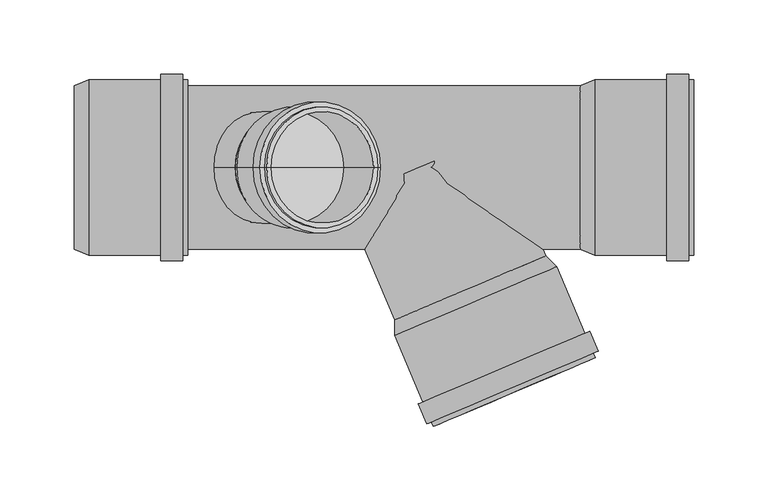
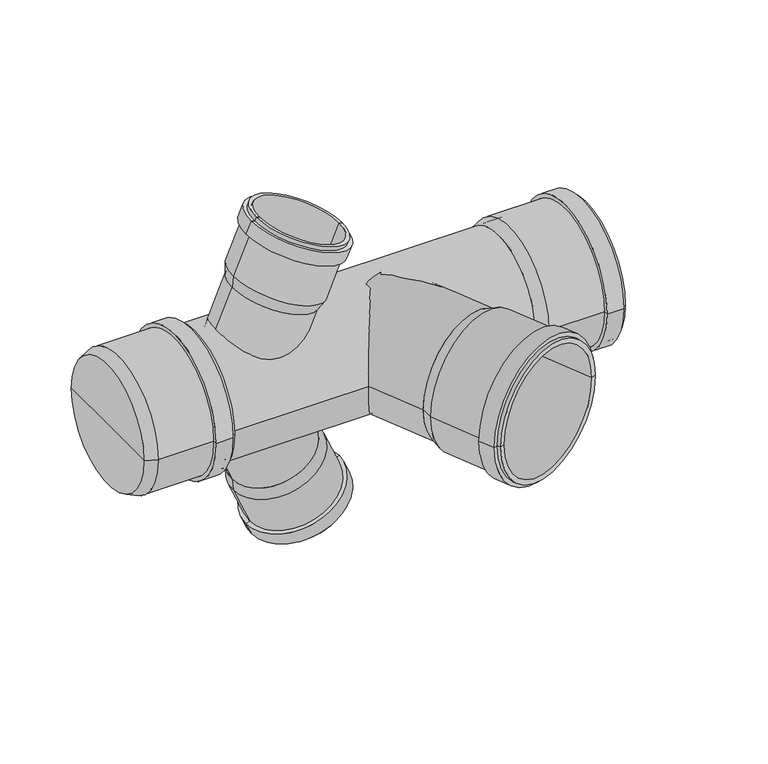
"""IFC4 building model written with IfcOpenShell, lengths in millimetres: pipe fitting geometry, pf_HTEPt : pf_HTEPt."""

from ifc_helpers import new_model, si_unit, point, frame, origin, origin_2d, place, context, project, spatial, polyline, circle_curve, trimmed, segment, composite_curve, outline, extrude, source, transform, mapped, element, save
from ifc_brep_helpers import plane_surface, cylinder_surface, revolved_surface, advanced_brep


def pipe_fitting_50fed7b4(model_context):
    return source(origin(), model_context, "Body", "SolidModel", [
        advanced_brep(
        [(-54.4225777, 0.0, 58.987971), (-123.4604417, 0.0, 88.2928056), (-122.6020611, 0.0, 98.2488682), (-47.857067, 0.0, 66.5215006), (-88.9415097, 0.0, 73.6403883), (-27.7344138, 0.0, 113.9275005), (-102.4794079, 0.0, 145.6548682), (-99.6258429, 0.0, 144.4436017), (-30.5879789, 0.0, 115.138767), (-29.0628997, 0.0, 110.797784), (-103.8078938, 0.0, 142.5251517), (-25.9331832, 0.0, 109.4692982), (-106.9376103, 0.0, 143.8536375), (-30.4656643, 0.0, 98.7914419), (-111.4700914, 0.0, 133.1757812), (-33.5953808, 0.0, 100.1199277), (-108.3403749, 0.0, 131.8472954), (-50.710632, 0.0, 67.7327671), (-119.748496, 0.0, 97.0376017), (-85.229564, 0.0, 82.3851844)],
        [
            (0, 1, circle_curve(frame((-88.9415097, 0.0, 73.6403883), z_axis=(0.39073112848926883, 0.0, 0.9205048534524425), x_axis=(-0.9205048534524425, 0.0, 0.39073112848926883)), 37.5)),
            (1, 2),
            (2, 3, circle_curve(frame((-85.229564, 0.0, 82.3851844), z_axis=(-0.39073112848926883, 0.0, -0.9205048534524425), x_axis=(-0.9205048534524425, 0.0, 0.39073112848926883)), 40.6)),
            (3, 0),
            (1, 0, circle_curve(frame((-88.9415097, 0.0, 73.6403883), z_axis=(0.39073112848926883, 0.0, 0.9205048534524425), x_axis=(-0.9205048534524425, 0.0, 0.39073112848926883)), 37.5)),
            (3, 2, circle_curve(frame((-85.229564, 0.0, 82.3851844), z_axis=(-0.39073112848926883, 0.0, -0.9205048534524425), x_axis=(-0.9205048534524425, 0.0, 0.39073112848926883)), 40.6)),
            (4, 1),
            (0, 4),
            (5, 6, circle_curve(frame((-65.1069109, 0.0, 129.7911843), z_axis=(0.39073112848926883, 0.0, 0.9205048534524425), x_axis=(-0.9205048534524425, 0.0, 0.39073112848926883)), 40.6)),
            (6, 7),
            (7, 8, circle_curve(frame((-65.1069109, 0.0, 129.7911843), z_axis=(-0.39073112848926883, 0.0, -0.9205048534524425), x_axis=(-0.9205048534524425, 0.0, 0.39073112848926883)), 37.5)),
            (8, 5),
            (6, 5, circle_curve(frame((-65.1069109, 0.0, 129.7911843), z_axis=(0.39073112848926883, 0.0, 0.9205048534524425), x_axis=(-0.9205048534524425, 0.0, 0.39073112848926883)), 40.6)),
            (8, 7, circle_curve(frame((-65.1069109, 0.0, 129.7911843), z_axis=(-0.39073112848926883, 0.0, -0.9205048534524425), x_axis=(-0.9205048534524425, 0.0, 0.39073112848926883)), 37.5)),
            (9, 10, circle_curve(frame((-66.4353967, 0.0, 126.6614678), z_axis=(0.39073112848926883, 0.0, 0.9205048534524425), x_axis=(-0.9205048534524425, 0.0, 0.39073112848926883)), 40.6)),
            (10, 6),
            (5, 9),
            (10, 9, circle_curve(frame((-66.4353967, 0.0, 126.6614678), z_axis=(0.39073112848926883, 0.0, 0.9205048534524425), x_axis=(-0.9205048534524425, 0.0, 0.39073112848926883)), 40.6)),
            (11, 12, circle_curve(frame((-66.4353967, 0.0, 126.6614678), z_axis=(0.39073112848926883, 0.0, 0.9205048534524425), x_axis=(-0.9205048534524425, 0.0, 0.39073112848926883)), 44.0)),
            (12, 10),
            (9, 11),
            (12, 11, circle_curve(frame((-66.4353967, 0.0, 126.6614678), z_axis=(0.39073112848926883, 0.0, 0.9205048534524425), x_axis=(-0.9205048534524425, 0.0, 0.39073112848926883)), 44.0)),
            (13, 14, circle_curve(frame((-70.9678778, 0.0, 115.9836115), z_axis=(0.39073112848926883, 0.0, 0.9205048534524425), x_axis=(-0.9205048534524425, 0.0, 0.39073112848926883)), 44.0)),
            (14, 12),
            (11, 13),
            (14, 13, circle_curve(frame((-70.9678778, 0.0, 115.9836115), z_axis=(0.39073112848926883, 0.0, 0.9205048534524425), x_axis=(-0.9205048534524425, 0.0, 0.39073112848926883)), 44.0)),
            (15, 16, circle_curve(frame((-70.9678778, 0.0, 115.9836115), z_axis=(0.39073112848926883, 0.0, 0.9205048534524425), x_axis=(-0.9205048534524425, 0.0, 0.39073112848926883)), 40.6)),
            (16, 14),
            (13, 15),
            (16, 15, circle_curve(frame((-70.9678778, 0.0, 115.9836115), z_axis=(0.39073112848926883, 0.0, 0.9205048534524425), x_axis=(-0.9205048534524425, 0.0, 0.39073112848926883)), 40.6)),
            (2, 16),
            (15, 3),
            (17, 18, circle_curve(frame((-85.229564, 0.0, 82.3851844), z_axis=(0.39073112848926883, 0.0, 0.9205048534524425), x_axis=(-0.9205048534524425, 0.0, 0.39073112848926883)), 37.5)),
            (18, 19),
            (19, 17),
            (18, 17, circle_curve(frame((-85.229564, 0.0, 82.3851844), z_axis=(0.39073112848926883, 0.0, 0.9205048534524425), x_axis=(-0.9205048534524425, 0.0, 0.39073112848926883)), 37.5)),
            (7, 18),
            (17, 8),
        ],
        [
            revolved_surface(polyline([(-122.6020611, 0.0, 98.2488682), (-123.4604417, 0.0, 88.2928056)]), (-88.9415097, 0.0, 73.6403883), (-0.39073112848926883, 0.0, -0.9205048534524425)),
            plane_surface(frame((-88.9415097, 0.0, 73.6403883), z_axis=(-0.39073112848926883, 0.0, -0.9205048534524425), x_axis=(-0.9205048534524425, 0.0, 0.39073112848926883))),
            plane_surface(frame((-65.1069109, 0.0, 129.7911843), z_axis=(0.39073112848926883, 0.0, 0.9205048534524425), x_axis=(-0.9205048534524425, 0.0, 0.39073112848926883))),
            cylinder_surface(frame((-88.9415097, 0.0, 73.6403883), z_axis=(-0.39073112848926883, 0.0, -0.9205048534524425), x_axis=(-0.9205048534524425, 0.0, 0.39073112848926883)), 40.6),
            plane_surface(frame((-66.4353967, 0.0, 126.6614678), z_axis=(0.39073112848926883, 0.0, 0.9205048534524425), x_axis=(-0.9205048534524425, 0.0, 0.39073112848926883))),
            cylinder_surface(frame((-88.9415097, 0.0, 73.6403883), z_axis=(-0.39073112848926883, 0.0, -0.9205048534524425), x_axis=(-0.9205048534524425, 0.0, 0.39073112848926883)), 44.0),
            plane_surface(frame((-70.9678778, 0.0, 115.9836115), z_axis=(-0.39073112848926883, 0.0, -0.9205048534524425), x_axis=(-0.9205048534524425, 0.0, 0.39073112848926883))),
            plane_surface(frame((-85.229564, 0.0, 82.3851844), z_axis=(0.39073112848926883, 0.0, 0.9205048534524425), x_axis=(-0.9205048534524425, 0.0, 0.39073112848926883))),
            revolved_surface(polyline([(-119.74849599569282, 0.0, 97.03760169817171), (-99.62584286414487, 0.0, 144.44360168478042)]), (-88.9415097, 0.0, 73.6403883), (-0.39073112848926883, 0.0, -0.9205048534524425)),
        ],
        [
            (0, [[1, 2, 3, 4]]),
            (0, [[5, -4, 6, -2]]),
            (1, [[7, -1, 8]]),
            (1, [[-8, -5, -7]]),
            (2, [[9, 10, 11, 12]]),
            (2, [[13, -12, 14, -10]]),
            (3, [[15, 16, -9, 17]]),
            (3, [[18, -17, -13, -16]]),
            (4, [[19, 20, -15, 21]]),
            (4, [[22, -21, -18, -20]]),
            (5, [[23, 24, -19, 25]]),
            (5, [[26, -25, -22, -24]]),
            (6, [[27, 28, -23, 29]]),
            (6, [[30, -29, -26, -28]]),
            (3, [[-3, 31, -27, 32]]),
            (3, [[-6, -32, -30, -31]]),
            (7, [[33, 34, 35]]),
            (7, [[36, -35, -34]]),
            (8, [[-11, 37, -33, 38]]),
            (8, [[-14, -38, -36, -37]]),
        ],
    ),
        advanced_brep(
        [(-123.4604417, 0.0, -88.2928056), (-54.4225777, 0.0, -58.987971), (-47.857067, 0.0, -66.5215006), (-122.6020611, 0.0, -98.2488682), (-88.9415097, 0.0, -73.6403883), (-102.4794079, 0.0, -145.6548682), (-27.7344138, 0.0, -113.9275005), (-30.5879789, 0.0, -115.138767), (-99.6258429, 0.0, -144.4436017), (-103.8078938, 0.0, -142.5251517), (-29.0628997, 0.0, -110.797784), (-106.9376103, 0.0, -143.8536375), (-25.9331832, 0.0, -109.4692982), (-111.4700914, 0.0, -133.1757812), (-30.4656643, 0.0, -98.7914419), (-108.3403749, 0.0, -131.8472954), (-33.5953808, 0.0, -100.1199277), (-119.748496, 0.0, -97.0376017), (-50.710632, 0.0, -67.7327671), (-85.229564, 0.0, -82.3851844)],
        [
            (0, 1, circle_curve(frame((-88.9415097, 0.0, -73.6403883), z_axis=(0.39073112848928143, 0.0, -0.920504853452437), x_axis=(0.920504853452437, 0.0, 0.39073112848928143)), 37.5)),
            (1, 2),
            (2, 3, circle_curve(frame((-85.229564, 0.0, -82.3851844), z_axis=(-0.39073112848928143, 0.0, 0.920504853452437), x_axis=(0.920504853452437, 0.0, 0.39073112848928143)), 40.6)),
            (3, 0),
            (1, 0, circle_curve(frame((-88.9415097, 0.0, -73.6403883), z_axis=(0.39073112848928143, 0.0, -0.920504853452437), x_axis=(0.920504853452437, 0.0, 0.39073112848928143)), 37.5)),
            (3, 2, circle_curve(frame((-85.229564, 0.0, -82.3851844), z_axis=(-0.39073112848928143, 0.0, 0.920504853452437), x_axis=(0.920504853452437, 0.0, 0.39073112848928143)), 40.6)),
            (4, 1),
            (0, 4),
            (5, 6, circle_curve(frame((-65.1069109, 0.0, -129.7911843), z_axis=(0.39073112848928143, 0.0, -0.920504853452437), x_axis=(0.920504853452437, 0.0, 0.39073112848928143)), 40.6)),
            (6, 7),
            (7, 8, circle_curve(frame((-65.1069109, 0.0, -129.7911843), z_axis=(-0.39073112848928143, 0.0, 0.920504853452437), x_axis=(0.920504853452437, 0.0, 0.39073112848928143)), 37.5)),
            (8, 5),
            (6, 5, circle_curve(frame((-65.1069109, 0.0, -129.7911843), z_axis=(0.39073112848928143, 0.0, -0.920504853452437), x_axis=(0.920504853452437, 0.0, 0.39073112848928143)), 40.6)),
            (8, 7, circle_curve(frame((-65.1069109, 0.0, -129.7911843), z_axis=(-0.39073112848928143, 0.0, 0.920504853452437), x_axis=(0.920504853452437, 0.0, 0.39073112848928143)), 37.5)),
            (9, 10, circle_curve(frame((-66.4353967, 0.0, -126.6614678), z_axis=(0.39073112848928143, 0.0, -0.920504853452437), x_axis=(0.920504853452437, 0.0, 0.39073112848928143)), 40.6)),
            (10, 6),
            (5, 9),
            (10, 9, circle_curve(frame((-66.4353967, 0.0, -126.6614678), z_axis=(0.39073112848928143, 0.0, -0.920504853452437), x_axis=(0.920504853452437, 0.0, 0.39073112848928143)), 40.6)),
            (11, 12, circle_curve(frame((-66.4353967, 0.0, -126.6614678), z_axis=(0.39073112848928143, 0.0, -0.920504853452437), x_axis=(0.920504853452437, 0.0, 0.39073112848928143)), 44.0)),
            (12, 10),
            (9, 11),
            (12, 11, circle_curve(frame((-66.4353967, 0.0, -126.6614678), z_axis=(0.39073112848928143, 0.0, -0.920504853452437), x_axis=(0.920504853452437, 0.0, 0.39073112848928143)), 44.0)),
            (13, 14, circle_curve(frame((-70.9678778, 0.0, -115.9836115), z_axis=(0.39073112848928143, 0.0, -0.920504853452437), x_axis=(0.920504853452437, 0.0, 0.39073112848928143)), 44.0)),
            (14, 12),
            (11, 13),
            (14, 13, circle_curve(frame((-70.9678778, 0.0, -115.9836115), z_axis=(0.39073112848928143, 0.0, -0.920504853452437), x_axis=(0.920504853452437, 0.0, 0.39073112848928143)), 44.0)),
            (15, 16, circle_curve(frame((-70.9678778, 0.0, -115.9836115), z_axis=(0.39073112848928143, 0.0, -0.920504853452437), x_axis=(0.920504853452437, 0.0, 0.39073112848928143)), 40.6)),
            (16, 14),
            (13, 15),
            (16, 15, circle_curve(frame((-70.9678778, 0.0, -115.9836115), z_axis=(0.39073112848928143, 0.0, -0.920504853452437), x_axis=(0.920504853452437, 0.0, 0.39073112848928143)), 40.6)),
            (2, 16),
            (15, 3),
            (17, 18, circle_curve(frame((-85.229564, 0.0, -82.3851844), z_axis=(0.39073112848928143, 0.0, -0.920504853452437), x_axis=(0.920504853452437, 0.0, 0.39073112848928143)), 37.5)),
            (18, 19),
            (19, 17),
            (18, 17, circle_curve(frame((-85.229564, 0.0, -82.3851844), z_axis=(0.39073112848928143, 0.0, -0.920504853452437), x_axis=(0.920504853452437, 0.0, 0.39073112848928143)), 37.5)),
            (7, 18),
            (17, 8),
        ],
        [
            revolved_surface(polyline([(-47.857067, 0.0, -66.5215006), (-54.4225777, 0.0, -58.987971)]), (-88.9415097, 0.0, -73.6403883), (-0.39073112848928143, 0.0, 0.920504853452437)),
            plane_surface(frame((-88.9415097, 0.0, -73.6403883), z_axis=(-0.39073112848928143, 0.0, 0.920504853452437), x_axis=(0.920504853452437, 0.0, 0.39073112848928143))),
            plane_surface(frame((-65.1069109, 0.0, -129.7911843), z_axis=(0.39073112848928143, 0.0, -0.920504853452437), x_axis=(0.920504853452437, 0.0, 0.39073112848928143))),
            cylinder_surface(frame((-88.9415097, 0.0, -73.6403883), z_axis=(-0.39073112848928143, 0.0, 0.920504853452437), x_axis=(0.920504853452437, 0.0, 0.39073112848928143)), 40.6),
            plane_surface(frame((-66.4353967, 0.0, -126.6614678), z_axis=(0.39073112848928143, 0.0, -0.920504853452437), x_axis=(0.920504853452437, 0.0, 0.39073112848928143))),
            cylinder_surface(frame((-88.9415097, 0.0, -73.6403883), z_axis=(-0.39073112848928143, 0.0, 0.920504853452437), x_axis=(0.920504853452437, 0.0, 0.39073112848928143)), 44.0),
            plane_surface(frame((-70.9678778, 0.0, -115.9836115), z_axis=(-0.39073112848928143, 0.0, 0.920504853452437), x_axis=(0.920504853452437, 0.0, 0.39073112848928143))),
            plane_surface(frame((-85.229564, 0.0, -82.3851844), z_axis=(0.39073112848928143, 0.0, -0.920504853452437), x_axis=(0.920504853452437, 0.0, 0.39073112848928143))),
            revolved_surface(polyline([(-50.71063198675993, 0.0, -67.73276706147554), (-30.587978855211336, 0.0, -115.13876704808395)]), (-88.9415097, 0.0, -73.6403883), (-0.39073112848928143, 0.0, 0.920504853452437)),
        ],
        [
            (0, [[1, 2, 3, 4]]),
            (0, [[5, -4, 6, -2]]),
            (1, [[7, -1, 8]]),
            (1, [[-8, -5, -7]]),
            (2, [[9, 10, 11, 12]]),
            (2, [[13, -12, 14, -10]]),
            (3, [[15, 16, -9, 17]]),
            (3, [[18, -17, -13, -16]]),
            (4, [[19, 20, -15, 21]]),
            (4, [[22, -21, -18, -20]]),
            (5, [[23, 24, -19, 25]]),
            (5, [[26, -25, -22, -24]]),
            (6, [[27, 28, -23, 29]]),
            (6, [[30, -29, -26, -28]]),
            (3, [[-3, 31, -27, 32]]),
            (3, [[-6, -32, -30, -31]]),
            (7, [[33, 34, 35]]),
            (7, [[36, -35, -34]]),
            (8, [[-11, 37, -33, 38]]),
            (8, [[-14, -38, -36, -37]]),
        ],
    ),
        advanced_brep(
        [(-16.2825007, -102.4025887, 0.0), (84.9730331, -59.4221646, 0.0), (92.4590488, -66.564963, 0.0), (-16.3446249, -112.7493824, 0.0), (34.3452662, -80.9123766, 0.0), (9.6389951, -173.9629552, 0.0), (118.4426688, -127.7785358, 0.0), (114.6685989, -129.3805334, 0.0), (13.413065, -172.3609575, 0.0), (8.3105093, -170.8332387, 0.0), (117.114183, -124.6488193, 0.0), (5.1807928, -172.1617245, 0.0), (120.2438995, -123.3203334, 0.0), (-0.4848086, -158.8144041, 0.0), (114.5782981, -109.9730131, 0.0), (2.6449079, -157.4859183, 0.0), (111.4485816, -111.3014989, 0.0), (-12.570555, -111.1473848, 0.0), (88.6849789, -68.1669607, 0.0), (38.0572119, -89.6571727, 0.0)],
        [
            (0, 1, circle_curve(frame((34.3452662, -80.9123766, 0.0), z_axis=(0.3907311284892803, -0.9205048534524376, 0.0), x_axis=(0.9205048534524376, 0.3907311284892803, 0.0)), 55.0)),
            (1, 2),
            (2, 3, circle_curve(frame((38.0572119, -89.6571727, 0.0), z_axis=(-0.3907311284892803, 0.9205048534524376, 0.0), x_axis=(0.9205048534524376, 0.3907311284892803, 0.0)), 59.1)),
            (3, 0),
            (1, 0, circle_curve(frame((34.3452662, -80.9123766, 0.0), z_axis=(0.3907311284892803, -0.9205048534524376, 0.0), x_axis=(0.9205048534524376, 0.3907311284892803, 0.0)), 55.0)),
            (3, 2, circle_curve(frame((38.0572119, -89.6571727, 0.0), z_axis=(-0.3907311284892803, 0.9205048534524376, 0.0), x_axis=(0.9205048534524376, 0.3907311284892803, 0.0)), 59.1)),
            (4, 1),
            (0, 4),
            (5, 6, circle_curve(frame((64.040832, -150.8707455, 0.0), z_axis=(0.3907311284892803, -0.9205048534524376, 0.0), x_axis=(0.9205048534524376, 0.3907311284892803, 0.0)), 59.1)),
            (6, 7),
            (7, 8, circle_curve(frame((64.040832, -150.8707455, 0.0), z_axis=(-0.3907311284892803, 0.9205048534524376, 0.0), x_axis=(0.9205048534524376, 0.3907311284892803, 0.0)), 55.0)),
            (8, 5),
            (6, 5, circle_curve(frame((64.040832, -150.8707455, 0.0), z_axis=(0.3907311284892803, -0.9205048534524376, 0.0), x_axis=(0.9205048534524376, 0.3907311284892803, 0.0)), 59.1)),
            (8, 7, circle_curve(frame((64.040832, -150.8707455, 0.0), z_axis=(-0.3907311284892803, 0.9205048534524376, 0.0), x_axis=(0.9205048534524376, 0.3907311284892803, 0.0)), 55.0)),
            (9, 10, circle_curve(frame((62.7123461, -147.741029, 0.0), z_axis=(0.3907311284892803, -0.9205048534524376, 0.0), x_axis=(0.9205048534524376, 0.3907311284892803, 0.0)), 59.1)),
            (10, 6),
            (5, 9),
            (10, 9, circle_curve(frame((62.7123461, -147.741029, 0.0), z_axis=(0.3907311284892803, -0.9205048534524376, 0.0), x_axis=(0.9205048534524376, 0.3907311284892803, 0.0)), 59.1)),
            (11, 12, circle_curve(frame((62.7123461, -147.741029, 0.0), z_axis=(0.3907311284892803, -0.9205048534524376, 0.0), x_axis=(0.9205048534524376, 0.3907311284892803, 0.0)), 62.5)),
            (12, 10),
            (9, 11),
            (12, 11, circle_curve(frame((62.7123461, -147.741029, 0.0), z_axis=(0.3907311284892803, -0.9205048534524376, 0.0), x_axis=(0.9205048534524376, 0.3907311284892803, 0.0)), 62.5)),
            (13, 14, circle_curve(frame((57.0467448, -134.3937086, 0.0), z_axis=(0.3907311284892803, -0.9205048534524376, 0.0), x_axis=(0.9205048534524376, 0.3907311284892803, 0.0)), 62.5)),
            (14, 12),
            (11, 13),
            (14, 13, circle_curve(frame((57.0467448, -134.3937086, 0.0), z_axis=(0.3907311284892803, -0.9205048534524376, 0.0), x_axis=(0.9205048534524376, 0.3907311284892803, 0.0)), 62.5)),
            (15, 16, circle_curve(frame((57.0467448, -134.3937086, 0.0), z_axis=(0.3907311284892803, -0.9205048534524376, 0.0), x_axis=(0.9205048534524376, 0.3907311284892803, 0.0)), 59.1)),
            (16, 14),
            (13, 15),
            (16, 15, circle_curve(frame((57.0467448, -134.3937086, 0.0), z_axis=(0.3907311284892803, -0.9205048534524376, 0.0), x_axis=(0.9205048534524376, 0.3907311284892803, 0.0)), 59.1)),
            (2, 16),
            (15, 3),
            (17, 18, circle_curve(frame((38.0572119, -89.6571727, 0.0), z_axis=(0.3907311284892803, -0.9205048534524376, 0.0), x_axis=(0.9205048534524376, 0.3907311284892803, 0.0)), 55.0)),
            (18, 19),
            (19, 17),
            (18, 17, circle_curve(frame((38.0572119, -89.6571727, 0.0), z_axis=(0.3907311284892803, -0.9205048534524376, 0.0), x_axis=(0.9205048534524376, 0.3907311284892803, 0.0)), 55.0)),
            (7, 18),
            (17, 8),
        ],
        [
            revolved_surface(polyline([(92.4590488, -66.564963, 0.0), (84.9730331, -59.4221646, 0.0)]), (34.3452662, -80.9123766, 0.0), (-0.3907311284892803, 0.9205048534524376, 0.0)),
            plane_surface(frame((34.3452662, -80.9123766, 0.0), z_axis=(-0.3907311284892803, 0.9205048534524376, 0.0), x_axis=(0.9205048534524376, 0.3907311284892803, 0.0))),
            plane_surface(frame((64.040832, -150.8707455, 0.0), z_axis=(0.3907311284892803, -0.9205048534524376, 0.0), x_axis=(0.9205048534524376, 0.3907311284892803, 0.0))),
            cylinder_surface(frame((34.3452662, -80.9123766, 0.0), z_axis=(-0.3907311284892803, 0.9205048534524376, 0.0), x_axis=(0.9205048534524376, 0.3907311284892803, 0.0)), 59.1),
            plane_surface(frame((62.7123461, -147.741029, 0.0), z_axis=(0.3907311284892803, -0.9205048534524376, 0.0), x_axis=(0.9205048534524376, 0.3907311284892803, 0.0))),
            cylinder_surface(frame((34.3452662, -80.9123766, 0.0), z_axis=(-0.3907311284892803, 0.9205048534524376, 0.0), x_axis=(0.9205048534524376, 0.3907311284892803, 0.0)), 62.5),
            plane_surface(frame((57.0467448, -134.3937086, 0.0), z_axis=(-0.3907311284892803, 0.9205048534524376, 0.0), x_axis=(0.9205048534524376, 0.3907311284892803, 0.0))),
            plane_surface(frame((38.0572119, -89.6571727, 0.0), z_axis=(0.3907311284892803, -0.9205048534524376, 0.0), x_axis=(0.9205048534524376, 0.3907311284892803, 0.0))),
            revolved_surface(polyline([(88.68497885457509, -68.16696062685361, 0.0), (114.66859892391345, -129.3805334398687, 0.0)]), (34.3452662, -80.9123766, 0.0), (-0.3907311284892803, 0.9205048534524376, 0.0)),
        ],
        [
            (0, [[1, 2, 3, 4]]),
            (0, [[5, -4, 6, -2]]),
            (1, [[7, -1, 8]]),
            (1, [[-8, -5, -7]]),
            (2, [[9, 10, 11, 12]]),
            (2, [[13, -12, 14, -10]]),
            (3, [[15, 16, -9, 17]]),
            (3, [[18, -17, -13, -16]]),
            (4, [[19, 20, -15, 21]]),
            (4, [[22, -21, -18, -20]]),
            (5, [[23, 24, -19, 25]]),
            (5, [[26, -25, -22, -24]]),
            (6, [[27, 28, -23, 29]]),
            (6, [[30, -29, -26, -28]]),
            (3, [[-3, 31, -27, 32]]),
            (3, [[-6, -32, -30, -31]]),
            (7, [[33, 34, 35]]),
            (7, [[36, -35, -34]]),
            (8, [[-11, 37, -33, 38]]),
            (8, [[-14, -38, -36, -37]]),
        ],
    ),
        advanced_brep(
        [(108.4, -55.0, 0.0), (108.4, 55.0, 0.0), (117.9, 59.1, 0.0), (117.9, -59.1, 0.0), (108.4, 0.0, 0.0), (184.4, -59.1, 0.0), (184.4, 59.1, 0.0), (184.4, 55.0, 0.0), (184.4, -55.0, 0.0), (181.0, -59.1, 0.0), (181.0, 59.1, 0.0), (181.0, -62.5, 0.0), (181.0, 62.5, 0.0), (166.5, -62.5, 0.0), (166.5, 62.5, 0.0), (166.5, -59.1, 0.0), (166.5, 59.1, 0.0), (117.9, -55.0, 0.0), (117.9, 55.0, 0.0), (117.9, 0.0, 0.0)],
        [
            (0, 1, circle_curve(frame((108.4, 0.0, 0.0), z_axis=(1.0, 0.0, 0.0), x_axis=(0.0, 1.0, 0.0)), 55.0)),
            (1, 2),
            (2, 3, circle_curve(frame((117.9, 0.0, 0.0), z_axis=(-1.0, 0.0, 0.0), x_axis=(0.0, 1.0, 0.0)), 59.1)),
            (3, 0),
            (1, 0, circle_curve(frame((108.4, 0.0, 0.0), z_axis=(1.0, 0.0, 0.0), x_axis=(0.0, 1.0, 0.0)), 55.0)),
            (3, 2, circle_curve(frame((117.9, 0.0, 0.0), z_axis=(-1.0, 0.0, 0.0), x_axis=(0.0, 1.0, 0.0)), 59.1)),
            (4, 1),
            (0, 4),
            (5, 6, circle_curve(frame((184.4, 0.0, 0.0), z_axis=(1.0, 0.0, 0.0), x_axis=(0.0, 1.0, 0.0)), 59.1)),
            (6, 7),
            (7, 8, circle_curve(frame((184.4, 0.0, 0.0), z_axis=(-1.0, 0.0, 0.0), x_axis=(0.0, 1.0, 0.0)), 55.0)),
            (8, 5),
            (6, 5, circle_curve(frame((184.4, 0.0, 0.0), z_axis=(1.0, 0.0, 0.0), x_axis=(0.0, 1.0, 0.0)), 59.1)),
            (8, 7, circle_curve(frame((184.4, 0.0, 0.0), z_axis=(-1.0, 0.0, 0.0), x_axis=(0.0, 1.0, 0.0)), 55.0)),
            (9, 10, circle_curve(frame((181.0, 0.0, 0.0), z_axis=(1.0, 0.0, 0.0), x_axis=(0.0, 1.0, 0.0)), 59.1)),
            (10, 6),
            (5, 9),
            (10, 9, circle_curve(frame((181.0, 0.0, 0.0), z_axis=(1.0, 0.0, 0.0), x_axis=(0.0, 1.0, 0.0)), 59.1)),
            (11, 12, circle_curve(frame((181.0, 0.0, 0.0), z_axis=(1.0, 0.0, 0.0), x_axis=(0.0, 1.0, 0.0)), 62.5)),
            (12, 10),
            (9, 11),
            (12, 11, circle_curve(frame((181.0, 0.0, 0.0), z_axis=(1.0, 0.0, 0.0), x_axis=(0.0, 1.0, 0.0)), 62.5)),
            (13, 14, circle_curve(frame((166.5, 0.0, 0.0), z_axis=(1.0, 0.0, 0.0), x_axis=(0.0, 1.0, 0.0)), 62.5)),
            (14, 12),
            (11, 13),
            (14, 13, circle_curve(frame((166.5, 0.0, 0.0), z_axis=(1.0, 0.0, 0.0), x_axis=(0.0, 1.0, 0.0)), 62.5)),
            (15, 16, circle_curve(frame((166.5, 0.0, 0.0), z_axis=(1.0, 0.0, 0.0), x_axis=(0.0, 1.0, 0.0)), 59.1)),
            (16, 14),
            (13, 15),
            (16, 15, circle_curve(frame((166.5, 0.0, 0.0), z_axis=(1.0, 0.0, 0.0), x_axis=(0.0, 1.0, 0.0)), 59.1)),
            (2, 16),
            (15, 3),
            (17, 18, circle_curve(frame((117.9, 0.0, 0.0), z_axis=(1.0, 0.0, 0.0), x_axis=(0.0, 1.0, 0.0)), 55.0)),
            (18, 19),
            (19, 17),
            (18, 17, circle_curve(frame((117.9, 0.0, 0.0), z_axis=(1.0, 0.0, 0.0), x_axis=(0.0, 1.0, 0.0)), 55.0)),
            (7, 18),
            (17, 8),
        ],
        [
            revolved_surface(polyline([(117.9, 59.1, 0.0), (108.4, 55.0, 0.0)]), (108.4, 0.0, 0.0), (-1.0, 0.0, 0.0)),
            plane_surface(frame((108.4, 0.0, 0.0), z_axis=(-1.0, 0.0, 0.0), x_axis=(0.0, 1.0, 0.0))),
            plane_surface(frame((184.4, 0.0, 0.0), z_axis=(1.0, 0.0, 0.0), x_axis=(0.0, 1.0, 0.0))),
            cylinder_surface(frame((108.4, 0.0, 0.0), z_axis=(-1.0, 0.0, 0.0), x_axis=(0.0, 1.0, 0.0)), 59.1),
            plane_surface(frame((181.0, 0.0, 0.0), z_axis=(1.0, 0.0, 0.0), x_axis=(0.0, 1.0, 0.0))),
            cylinder_surface(frame((108.4, 0.0, 0.0), z_axis=(-1.0, 0.0, 0.0), x_axis=(0.0, 1.0, 0.0)), 62.5),
            plane_surface(frame((166.5, 0.0, 0.0), z_axis=(-1.0, 0.0, 0.0), x_axis=(0.0, 1.0, 0.0))),
            plane_surface(frame((117.9, 0.0, 0.0), z_axis=(1.0, 0.0, 0.0), x_axis=(0.0, 1.0, 0.0))),
            revolved_surface(polyline([(117.9, 55.0, 0.0), (184.4, 55.0, 0.0)]), (108.4, 0.0, 0.0), (-1.0, 0.0, 0.0)),
        ],
        [
            (0, [[1, 2, 3, 4]]),
            (0, [[5, -4, 6, -2]]),
            (1, [[7, -1, 8]]),
            (1, [[-8, -5, -7]]),
            (2, [[9, 10, 11, 12]]),
            (2, [[13, -12, 14, -10]]),
            (3, [[15, 16, -9, 17]]),
            (3, [[18, -17, -13, -16]]),
            (4, [[19, 20, -15, 21]]),
            (4, [[22, -21, -18, -20]]),
            (5, [[23, 24, -19, 25]]),
            (5, [[26, -25, -22, -24]]),
            (6, [[27, 28, -23, 29]]),
            (6, [[30, -29, -26, -28]]),
            (3, [[-3, 31, -27, 32]]),
            (3, [[-6, -32, -30, -31]]),
            (7, [[33, 34, 35]]),
            (7, [[36, -35, -34]]),
            (8, [[-11, 37, -33, 38]]),
            (8, [[-14, -38, -36, -37]]),
        ],
    ),
        advanced_brep(
        [(-231.5, -55.0, 0.0), (-231.5, 55.0, 0.0), (-222.0, 59.1, 0.0), (-222.0, -59.1, 0.0), (-231.5, 0.0, 0.0), (-155.5, -59.1, 0.0), (-155.5, 59.1, 0.0), (-155.5, 55.0, 0.0), (-155.5, -55.0, 0.0), (-158.9, -59.1, 0.0), (-158.9, 59.1, 0.0), (-158.9, -62.5, 0.0), (-158.9, 62.5, 0.0), (-173.4, -62.5, 0.0), (-173.4, 62.5, 0.0), (-173.4, -59.1, 0.0), (-173.4, 59.1, 0.0), (-222.0, -55.0, 0.0), (-222.0, 55.0, 0.0), (-222.0, 0.0, 0.0)],
        [
            (0, 1, circle_curve(frame((-231.5, 0.0, 0.0), z_axis=(1.0, 0.0, 0.0), x_axis=(0.0, 1.0, 0.0)), 55.0)),
            (1, 2),
            (2, 3, circle_curve(frame((-222.0, 0.0, 0.0), z_axis=(-1.0, 0.0, 0.0), x_axis=(0.0, 1.0, 0.0)), 59.1)),
            (3, 0),
            (1, 0, circle_curve(frame((-231.5, 0.0, 0.0), z_axis=(1.0, 0.0, 0.0), x_axis=(0.0, 1.0, 0.0)), 55.0)),
            (3, 2, circle_curve(frame((-222.0, 0.0, 0.0), z_axis=(-1.0, 0.0, 0.0), x_axis=(0.0, 1.0, 0.0)), 59.1)),
            (4, 1),
            (0, 4),
            (5, 6, circle_curve(frame((-155.5, 0.0, 0.0), z_axis=(1.0, 0.0, 0.0), x_axis=(0.0, 1.0, 0.0)), 59.1)),
            (6, 7),
            (7, 8, circle_curve(frame((-155.5, 0.0, 0.0), z_axis=(-1.0, 0.0, 0.0), x_axis=(0.0, 1.0, 0.0)), 55.0)),
            (8, 5),
            (6, 5, circle_curve(frame((-155.5, 0.0, 0.0), z_axis=(1.0, 0.0, 0.0), x_axis=(0.0, 1.0, 0.0)), 59.1)),
            (8, 7, circle_curve(frame((-155.5, 0.0, 0.0), z_axis=(-1.0, 0.0, 0.0), x_axis=(0.0, 1.0, 0.0)), 55.0)),
            (9, 10, circle_curve(frame((-158.9, 0.0, 0.0), z_axis=(1.0, 0.0, 0.0), x_axis=(0.0, 1.0, 0.0)), 59.1)),
            (10, 6),
            (5, 9),
            (10, 9, circle_curve(frame((-158.9, 0.0, 0.0), z_axis=(1.0, 0.0, 0.0), x_axis=(0.0, 1.0, 0.0)), 59.1)),
            (11, 12, circle_curve(frame((-158.9, 0.0, 0.0), z_axis=(1.0, 0.0, 0.0), x_axis=(0.0, 1.0, 0.0)), 62.5)),
            (12, 10),
            (9, 11),
            (12, 11, circle_curve(frame((-158.9, 0.0, 0.0), z_axis=(1.0, 0.0, 0.0), x_axis=(0.0, 1.0, 0.0)), 62.5)),
            (13, 14, circle_curve(frame((-173.4, 0.0, 0.0), z_axis=(1.0, 0.0, 0.0), x_axis=(0.0, 1.0, 0.0)), 62.5)),
            (14, 12),
            (11, 13),
            (14, 13, circle_curve(frame((-173.4, 0.0, 0.0), z_axis=(1.0, 0.0, 0.0), x_axis=(0.0, 1.0, 0.0)), 62.5)),
            (15, 16, circle_curve(frame((-173.4, 0.0, 0.0), z_axis=(1.0, 0.0, 0.0), x_axis=(0.0, 1.0, 0.0)), 59.1)),
            (16, 14),
            (13, 15),
            (16, 15, circle_curve(frame((-173.4, 0.0, 0.0), z_axis=(1.0, 0.0, 0.0), x_axis=(0.0, 1.0, 0.0)), 59.1)),
            (2, 16),
            (15, 3),
            (17, 18, circle_curve(frame((-222.0, 0.0, 0.0), z_axis=(1.0, 0.0, 0.0), x_axis=(0.0, 1.0, 0.0)), 55.0)),
            (18, 19),
            (19, 17),
            (18, 17, circle_curve(frame((-222.0, 0.0, 0.0), z_axis=(1.0, 0.0, 0.0), x_axis=(0.0, 1.0, 0.0)), 55.0)),
            (7, 18),
            (17, 8),
        ],
        [
            revolved_surface(polyline([(-222.0, 59.1, 0.0), (-231.5, 55.0, 0.0)]), (-231.5, 0.0, 0.0), (-1.0, 0.0, 0.0)),
            plane_surface(frame((-231.5, 0.0, 0.0), z_axis=(-1.0, 0.0, 0.0), x_axis=(0.0, 1.0, 0.0))),
            plane_surface(frame((-155.5, 0.0, 0.0), z_axis=(1.0, 0.0, 0.0), x_axis=(0.0, 1.0, 0.0))),
            cylinder_surface(frame((-231.5, 0.0, 0.0), z_axis=(-1.0, 0.0, 0.0), x_axis=(0.0, 1.0, 0.0)), 59.1),
            plane_surface(frame((-158.9, 0.0, 0.0), z_axis=(1.0, 0.0, 0.0), x_axis=(0.0, 1.0, 0.0))),
            cylinder_surface(frame((-231.5, 0.0, 0.0), z_axis=(-1.0, 0.0, 0.0), x_axis=(0.0, 1.0, 0.0)), 62.5),
            plane_surface(frame((-173.4, 0.0, 0.0), z_axis=(-1.0, 0.0, 0.0), x_axis=(0.0, 1.0, 0.0))),
            plane_surface(frame((-222.0, 0.0, 0.0), z_axis=(1.0, 0.0, 0.0), x_axis=(0.0, 1.0, 0.0))),
            revolved_surface(polyline([(-222.0, 55.0, 0.0), (-155.5, 55.0, 0.0)]), (-231.5, 0.0, 0.0), (-1.0, 0.0, 0.0)),
        ],
        [
            (0, [[1, 2, 3, 4]]),
            (0, [[5, -4, 6, -2]]),
            (1, [[7, -1, 8]]),
            (1, [[-8, -5, -7]]),
            (2, [[9, 10, 11, 12]]),
            (2, [[13, -12, 14, -10]]),
            (3, [[15, 16, -9, 17]]),
            (3, [[18, -17, -13, -16]]),
            (4, [[19, 20, -15, 21]]),
            (4, [[22, -21, -18, -20]]),
            (5, [[23, 24, -19, 25]]),
            (5, [[26, -25, -22, -24]]),
            (6, [[27, 28, -23, 29]]),
            (6, [[30, -29, -26, -28]]),
            (3, [[-3, 31, -27, 32]]),
            (3, [[-6, -32, -30, -31]]),
            (7, [[33, 34, 35]]),
            (7, [[36, -35, -34]]),
            (8, [[-11, 37, -33, 38]]),
            (8, [[-14, -38, -36, -37]]),
        ],
    ),
        extrude(outline(composite_curve([segment(trimmed(circle_curve(origin_2d(), 37.5), [point((0.0, 37.5))], [point((0.0, -37.5))], False, "CARTESIAN"), True, "CONTINUOUS"), segment(trimmed(circle_curve(origin_2d(), 37.5), [point((0.0, -37.5))], [point((0.0, 37.5))], False, "CARTESIAN"), True, "CONTINUOUS")], self_intersect=False)), frame((-120.2, 0.0, 0.0), z_axis=(0.3907311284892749, 0.0, 0.9205048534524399), x_axis=(0.0, -1.0, 0.0)), (0.0, 0.0, 1.0), 80.0),
        extrude(outline(composite_curve([segment(trimmed(circle_curve(origin_2d(), 37.5), [point((0.0, -37.5))], [point((0.0, 37.5))], False, "CARTESIAN"), True, "CONTINUOUS"), segment(trimmed(circle_curve(origin_2d(), 37.5), [point((0.0, 37.5))], [point((0.0, -37.5))], False, "CARTESIAN"), True, "CONTINUOUS")], self_intersect=False)), frame((-88.9415097, 0.0, -73.6403883), z_axis=(-0.3907311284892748, 0.0, 0.9205048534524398), x_axis=(0.0, -1.0, 0.0)), (0.0, 0.0, 1.0), 80.0),
        extrude(outline(composite_curve([segment(trimmed(circle_curve(origin_2d(), 55.0), [point((0.0, -55.0))], [point((0.0, 54.9999999))], False, "CARTESIAN"), True, "CONTINUOUS"), segment(trimmed(circle_curve(origin_2d(), 55.0), [point((0.0, 54.9999999))], [point((0.0, -55.0))], False, "CARTESIAN"), True, "CONTINUOUS")], self_intersect=False)), frame((34.3452662, -80.9123766, 0.0), z_axis=(-0.39073112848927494, 0.9205048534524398, 0.0), x_axis=(0.0, 0.0, 1.0)), (0.0, 0.0, 1.0), 87.9),
        extrude(outline(composite_curve([segment(trimmed(circle_curve(origin_2d(), 55.0), [point((-55.0, 0.0))], [point((55.0, 0.0))], False, "CARTESIAN"), True, "CONTINUOUS"), segment(trimmed(circle_curve(origin_2d(), 55.0), [point((55.0, 0.0))], [point((-55.0, 0.0))], False, "CARTESIAN"), True, "CONTINUOUS")], self_intersect=False)), frame((-155.5, 0.0, 0.0), z_axis=(1.0, 0.0, 0.0), x_axis=(0.0, 1.0, 0.0)), (0.0, 0.0, 1.0), 263.9),
    ])


if __name__ == "__main__":
    model = new_model("IFC4")
    model_context = context("Model", 3, world=origin())
    ifc_project = project(units=[si_unit("LENGTHUNIT", "METRE", prefix="MILLI")], contexts=[model_context])
    site = spatial("IfcSite", under=ifc_project)
    building = spatial("IfcBuilding", under=site)
    placement = place(None, origin())
    pipe_fitting_shape = pipe_fitting_50fed7b4(model_context)
    element("IfcPipeFitting", 1, ObjectType="pf_HTEPt : pf_HTEPt", at=placement, inside=building, context=model_context, shape_type="MappedRepresentation", body=[
        mapped(pipe_fitting_shape, transform((0.0, 0.0, 0.0), x_axis=(1.0, 0.0, 0.0), y_axis=(0.0, 1.0, 0.0), z_axis=(0.0, 0.0, 1.0))),
    ])
    save(model, "model.ifc")
